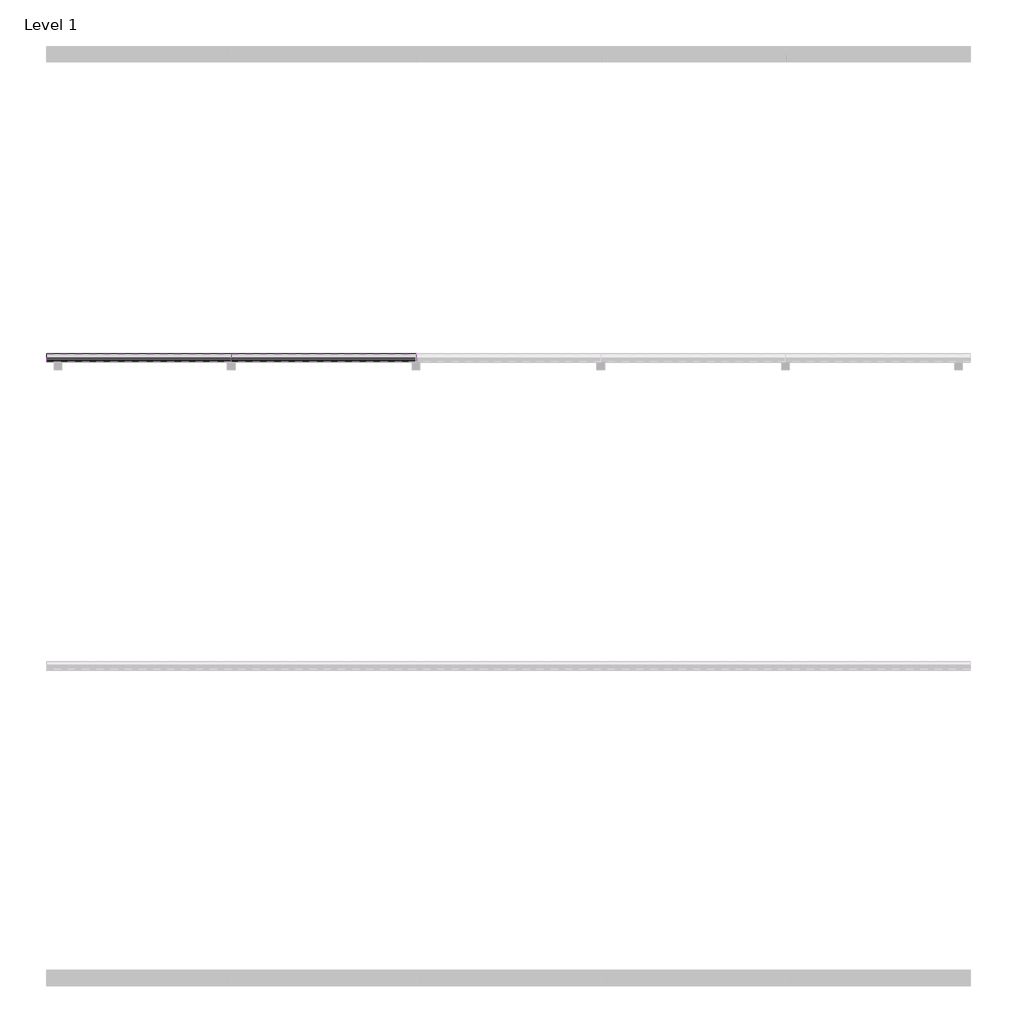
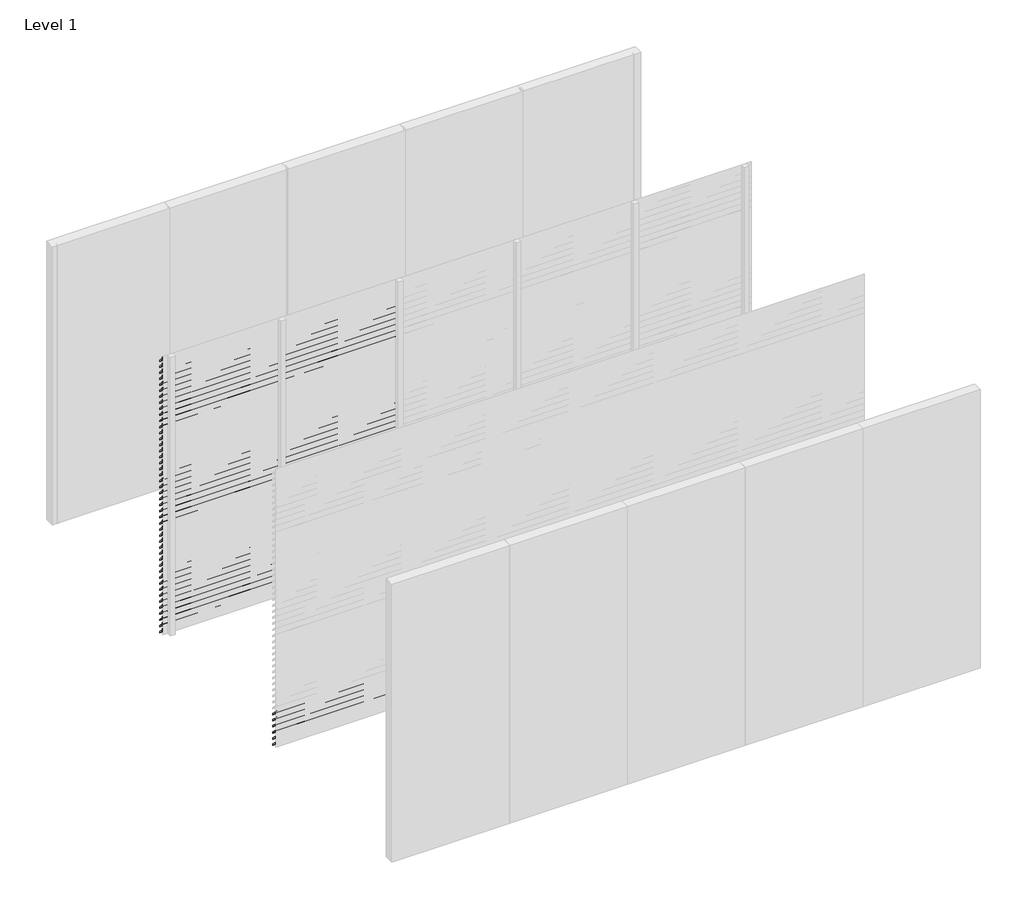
# One storey, part 5 of 12: 97 proxies.
"""IFC4 building model written with IfcOpenShell, lengths in millimetres."""

from ifc_helpers import new_model, si_unit, frame, origin, place, context, project, spatial, polyline, outline, extrude, element, save

model = new_model("IFC4")

# Units and contexts
model_context = context("Model", 3, world=origin())
ifc_project = project(units=[si_unit("LENGTHUNIT", "METRE", prefix="MILLI")], contexts=[model_context])

# Site, building, storey
site = spatial("IfcSite", under=ifc_project)
building = spatial("IfcBuilding", under=site)
storey = spatial("IfcBuildingStorey", under=building, Name="Level 1", Elevation=0.0)

# Proxies
placement = place(None, origin())
element("IfcBuildingElementProxy", 1, Name="Wall Sweeps", at=placement, inside=storey, context=model_context, shape_type="SweptSolid", body=[
    extrude(outline(polyline([(-11995.0, 2990.0), (-11995.0, 2980.7409854), (-11946.0, 2930.0), (-11946.0, 2914.0), (-11997.0, 2966.812046), (-11997.0, 2990.0), (-11995.0, 2990.0)])), frame((0.0, 0.0, 0.0), z_axis=(1.0, 0.0, 0.0), x_axis=(0.0, 1.0, 0.0)), (0.0, 0.0, 1.0), 1200.0),
])
element("IfcBuildingElementProxy", 2, Name="Wall Sweeps", at=placement, inside=storey, context=model_context, shape_type="SweptSolid", body=[
    extrude(outline(polyline([(-11995.0, 2925.0), (-11995.0, 2915.7409854), (-11946.0, 2865.0), (-11946.0, 2849.0), (-11997.0, 2901.812046), (-11997.0, 2925.0), (-11995.0, 2925.0)])), frame((0.0, 0.0, 0.0), z_axis=(1.0, 0.0, 0.0), x_axis=(0.0, 1.0, 0.0)), (0.0, 0.0, 1.0), 1200.0),
])
element("IfcBuildingElementProxy", 3, Name="Wall Sweeps", at=placement, inside=storey, context=model_context, shape_type="SweptSolid", body=[
    extrude(outline(polyline([(-11995.0, 2860.0), (-11995.0, 2850.7409854), (-11946.0, 2800.0), (-11946.0, 2784.0), (-11997.0, 2836.812046), (-11997.0, 2860.0), (-11995.0, 2860.0)])), frame((0.0, 0.0, 0.0), z_axis=(1.0, 0.0, 0.0), x_axis=(0.0, 1.0, 0.0)), (0.0, 0.0, 1.0), 1200.0),
])
element("IfcBuildingElementProxy", 4, Name="Wall Sweeps", at=placement, inside=storey, context=model_context, shape_type="SweptSolid", body=[
    extrude(outline(polyline([(-11995.0, 2795.0), (-11995.0, 2785.7409854), (-11946.0, 2735.0), (-11946.0, 2719.0), (-11997.0, 2771.812046), (-11997.0, 2795.0), (-11995.0, 2795.0)])), frame((0.0, 0.0, 0.0), z_axis=(1.0, 0.0, 0.0), x_axis=(0.0, 1.0, 0.0)), (0.0, 0.0, 1.0), 1200.0),
])
element("IfcBuildingElementProxy", 5, Name="Wall Sweeps", at=placement, inside=storey, context=model_context, shape_type="SweptSolid", body=[
    extrude(outline(polyline([(-11995.0, 2730.0), (-11995.0, 2720.7409854), (-11946.0, 2670.0), (-11946.0, 2654.0), (-11997.0, 2706.812046), (-11997.0, 2730.0), (-11995.0, 2730.0)])), frame((0.0, 0.0, 0.0), z_axis=(1.0, 0.0, 0.0), x_axis=(0.0, 1.0, 0.0)), (0.0, 0.0, 1.0), 1200.0),
])
element("IfcBuildingElementProxy", 6, Name="Wall Sweeps", at=placement, inside=storey, context=model_context, shape_type="SweptSolid", body=[
    extrude(outline(polyline([(-11995.0, 2665.0), (-11995.0, 2655.7409854), (-11946.0, 2605.0), (-11946.0, 2589.0), (-11997.0, 2641.812046), (-11997.0, 2665.0), (-11995.0, 2665.0)])), frame((0.0, 0.0, 0.0), z_axis=(1.0, 0.0, 0.0), x_axis=(0.0, 1.0, 0.0)), (0.0, 0.0, 1.0), 1200.0),
])
element("IfcBuildingElementProxy", 7, Name="Wall Sweeps", at=placement, inside=storey, context=model_context, shape_type="SweptSolid", body=[
    extrude(outline(polyline([(-11995.0, 2600.0), (-11995.0, 2590.7409854), (-11946.0, 2540.0), (-11946.0, 2524.0), (-11997.0, 2576.812046), (-11997.0, 2600.0), (-11995.0, 2600.0)])), frame((0.0, 0.0, 0.0), z_axis=(1.0, 0.0, 0.0), x_axis=(0.0, 1.0, 0.0)), (0.0, 0.0, 1.0), 1200.0),
])
element("IfcBuildingElementProxy", 8, Name="Wall Sweeps", at=placement, inside=storey, context=model_context, shape_type="SweptSolid", body=[
    extrude(outline(polyline([(-11995.0, 2535.0), (-11995.0, 2525.7409854), (-11946.0, 2475.0), (-11946.0, 2459.0), (-11997.0, 2511.812046), (-11997.0, 2535.0), (-11995.0, 2535.0)])), frame((0.0, 0.0, 0.0), z_axis=(1.0, 0.0, 0.0), x_axis=(0.0, 1.0, 0.0)), (0.0, 0.0, 1.0), 1200.0),
])
element("IfcBuildingElementProxy", 9, Name="Wall Sweeps", at=placement, inside=storey, context=model_context, shape_type="SweptSolid", body=[
    extrude(outline(polyline([(-11995.0, 2470.0), (-11995.0, 2460.7409854), (-11946.0, 2410.0), (-11946.0, 2394.0), (-11997.0, 2446.812046), (-11997.0, 2470.0), (-11995.0, 2470.0)])), frame((0.0, 0.0, 0.0), z_axis=(1.0, 0.0, 0.0), x_axis=(0.0, 1.0, 0.0)), (0.0, 0.0, 1.0), 1200.0),
])
element("IfcBuildingElementProxy", 10, Name="Wall Sweeps", at=placement, inside=storey, context=model_context, shape_type="SweptSolid", body=[
    extrude(outline(polyline([(-11995.0, 2405.0), (-11995.0, 2395.7409854), (-11946.0, 2345.0), (-11946.0, 2329.0), (-11997.0, 2381.812046), (-11997.0, 2405.0), (-11995.0, 2405.0)])), frame((0.0, 0.0, 0.0), z_axis=(1.0, 0.0, 0.0), x_axis=(0.0, 1.0, 0.0)), (0.0, 0.0, 1.0), 1200.0),
])
element("IfcBuildingElementProxy", 11, Name="Wall Sweeps", at=placement, inside=storey, context=model_context, shape_type="SweptSolid", body=[
    extrude(outline(polyline([(-11995.0, 2340.0), (-11995.0, 2330.7409854), (-11946.0, 2280.0), (-11946.0, 2264.0), (-11997.0, 2316.812046), (-11997.0, 2340.0), (-11995.0, 2340.0)])), frame((0.0, 0.0, 0.0), z_axis=(1.0, 0.0, 0.0), x_axis=(0.0, 1.0, 0.0)), (0.0, 0.0, 1.0), 1200.0),
])
element("IfcBuildingElementProxy", 12, Name="Wall Sweeps", at=placement, inside=storey, context=model_context, shape_type="SweptSolid", body=[
    extrude(outline(polyline([(-11995.0, 2275.0), (-11995.0, 2265.7409854), (-11946.0, 2215.0), (-11946.0, 2199.0), (-11997.0, 2251.812046), (-11997.0, 2275.0), (-11995.0, 2275.0)])), frame((0.0, 0.0, 0.0), z_axis=(1.0, 0.0, 0.0), x_axis=(0.0, 1.0, 0.0)), (0.0, 0.0, 1.0), 1200.0),
])
element("IfcBuildingElementProxy", 13, Name="Wall Sweeps", at=placement, inside=storey, context=model_context, shape_type="SweptSolid", body=[
    extrude(outline(polyline([(-11995.0, 2210.0), (-11995.0, 2200.7409854), (-11946.0, 2150.0), (-11946.0, 2134.0), (-11997.0, 2186.812046), (-11997.0, 2210.0), (-11995.0, 2210.0)])), frame((0.0, 0.0, 0.0), z_axis=(1.0, 0.0, 0.0), x_axis=(0.0, 1.0, 0.0)), (0.0, 0.0, 1.0), 1200.0),
])
element("IfcBuildingElementProxy", 14, Name="Wall Sweeps", at=placement, inside=storey, context=model_context, shape_type="SweptSolid", body=[
    extrude(outline(polyline([(-11995.0, 2145.0), (-11995.0, 2135.7409854), (-11946.0, 2085.0), (-11946.0, 2069.0), (-11997.0, 2121.812046), (-11997.0, 2145.0), (-11995.0, 2145.0)])), frame((0.0, 0.0, 0.0), z_axis=(1.0, 0.0, 0.0), x_axis=(0.0, 1.0, 0.0)), (0.0, 0.0, 1.0), 1200.0),
])
element("IfcBuildingElementProxy", 15, Name="Wall Sweeps", at=placement, inside=storey, context=model_context, shape_type="SweptSolid", body=[
    extrude(outline(polyline([(-11995.0, 2080.0), (-11995.0, 2070.7409854), (-11946.0, 2020.0), (-11946.0, 2004.0), (-11997.0, 2056.812046), (-11997.0, 2080.0), (-11995.0, 2080.0)])), frame((0.0, 0.0, 0.0), z_axis=(1.0, 0.0, 0.0), x_axis=(0.0, 1.0, 0.0)), (0.0, 0.0, 1.0), 1200.0),
])
element("IfcBuildingElementProxy", 16, Name="Wall Sweeps", at=placement, inside=storey, context=model_context, shape_type="SweptSolid", body=[
    extrude(outline(polyline([(-11995.0, 2015.0), (-11995.0, 2005.7409854), (-11946.0, 1955.0), (-11946.0, 1939.0), (-11997.0, 1991.812046), (-11997.0, 2015.0), (-11995.0, 2015.0)])), frame((0.0, 0.0, 0.0), z_axis=(1.0, 0.0, 0.0), x_axis=(0.0, 1.0, 0.0)), (0.0, 0.0, 1.0), 1200.0),
])
element("IfcBuildingElementProxy", 17, Name="Wall Sweeps", at=placement, inside=storey, context=model_context, shape_type="SweptSolid", body=[
    extrude(outline(polyline([(-11995.0, 1950.0), (-11995.0, 1940.7409854), (-11946.0, 1890.0), (-11946.0, 1874.0), (-11997.0, 1926.812046), (-11997.0, 1950.0), (-11995.0, 1950.0)])), frame((0.0, 0.0, 0.0), z_axis=(1.0, 0.0, 0.0), x_axis=(0.0, 1.0, 0.0)), (0.0, 0.0, 1.0), 1200.0),
])
element("IfcBuildingElementProxy", 18, Name="Wall Sweeps", at=placement, inside=storey, context=model_context, shape_type="SweptSolid", body=[
    extrude(outline(polyline([(-11995.0, 1885.0), (-11995.0, 1875.7409854), (-11946.0, 1825.0), (-11946.0, 1809.0), (-11997.0, 1861.812046), (-11997.0, 1885.0), (-11995.0, 1885.0)])), frame((0.0, 0.0, 0.0), z_axis=(1.0, 0.0, 0.0), x_axis=(0.0, 1.0, 0.0)), (0.0, 0.0, 1.0), 1200.0),
])
element("IfcBuildingElementProxy", 19, Name="Wall Sweeps", at=placement, inside=storey, context=model_context, shape_type="SweptSolid", body=[
    extrude(outline(polyline([(-11995.0, 1820.0), (-11995.0, 1810.7409854), (-11946.0, 1760.0), (-11946.0, 1744.0), (-11997.0, 1796.812046), (-11997.0, 1820.0), (-11995.0, 1820.0)])), frame((0.0, 0.0, 0.0), z_axis=(1.0, 0.0, 0.0), x_axis=(0.0, 1.0, 0.0)), (0.0, 0.0, 1.0), 1200.0),
])
element("IfcBuildingElementProxy", 20, Name="Wall Sweeps", at=placement, inside=storey, context=model_context, shape_type="SweptSolid", body=[
    extrude(outline(polyline([(-11995.0, 1755.0), (-11995.0, 1745.7409854), (-11946.0, 1695.0), (-11946.0, 1679.0), (-11997.0, 1731.812046), (-11997.0, 1755.0), (-11995.0, 1755.0)])), frame((0.0, 0.0, 0.0), z_axis=(1.0, 0.0, 0.0), x_axis=(0.0, 1.0, 0.0)), (0.0, 0.0, 1.0), 1200.0),
])
element("IfcBuildingElementProxy", 21, Name="Wall Sweeps", at=placement, inside=storey, context=model_context, shape_type="SweptSolid", body=[
    extrude(outline(polyline([(-11995.0, 1690.0), (-11995.0, 1680.7409854), (-11946.0, 1630.0), (-11946.0, 1614.0), (-11997.0, 1666.812046), (-11997.0, 1690.0), (-11995.0, 1690.0)])), frame((0.0, 0.0, 0.0), z_axis=(1.0, 0.0, 0.0), x_axis=(0.0, 1.0, 0.0)), (0.0, 0.0, 1.0), 1200.0),
])
element("IfcBuildingElementProxy", 22, Name="Wall Sweeps", at=placement, inside=storey, context=model_context, shape_type="SweptSolid", body=[
    extrude(outline(polyline([(-11995.0, 1625.0), (-11995.0, 1615.7409854), (-11946.0, 1565.0), (-11946.0, 1549.0), (-11997.0, 1601.812046), (-11997.0, 1625.0), (-11995.0, 1625.0)])), frame((0.0, 0.0, 0.0), z_axis=(1.0, 0.0, 0.0), x_axis=(0.0, 1.0, 0.0)), (0.0, 0.0, 1.0), 1200.0),
])
element("IfcBuildingElementProxy", 23, Name="Wall Sweeps", at=placement, inside=storey, context=model_context, shape_type="SweptSolid", body=[
    extrude(outline(polyline([(-11995.0, 1560.0), (-11995.0, 1550.7409854), (-11946.0, 1500.0), (-11946.0, 1484.0), (-11997.0, 1536.812046), (-11997.0, 1560.0), (-11995.0, 1560.0)])), frame((0.0, 0.0, 0.0), z_axis=(1.0, 0.0, 0.0), x_axis=(0.0, 1.0, 0.0)), (0.0, 0.0, 1.0), 1200.0),
])
element("IfcBuildingElementProxy", 24, Name="Wall Sweeps", at=placement, inside=storey, context=model_context, shape_type="SweptSolid", body=[
    extrude(outline(polyline([(-11995.0, 1495.0), (-11995.0, 1485.7409854), (-11946.0, 1435.0), (-11946.0, 1419.0), (-11997.0, 1471.812046), (-11997.0, 1495.0), (-11995.0, 1495.0)])), frame((0.0, 0.0, 0.0), z_axis=(1.0, 0.0, 0.0), x_axis=(0.0, 1.0, 0.0)), (0.0, 0.0, 1.0), 1200.0),
])
element("IfcBuildingElementProxy", 25, Name="Wall Sweeps", at=placement, inside=storey, context=model_context, shape_type="SweptSolid", body=[
    extrude(outline(polyline([(-11995.0, 1430.0), (-11995.0, 1420.7409854), (-11946.0, 1370.0), (-11946.0, 1354.0), (-11997.0, 1406.812046), (-11997.0, 1430.0), (-11995.0, 1430.0)])), frame((0.0, 0.0, 0.0), z_axis=(1.0, 0.0, 0.0), x_axis=(0.0, 1.0, 0.0)), (0.0, 0.0, 1.0), 1200.0),
])
element("IfcBuildingElementProxy", 26, Name="Wall Sweeps", at=placement, inside=storey, context=model_context, shape_type="SweptSolid", body=[
    extrude(outline(polyline([(-11995.0, 1365.0), (-11995.0, 1355.7409854), (-11946.0, 1305.0), (-11946.0, 1289.0), (-11997.0, 1341.812046), (-11997.0, 1365.0), (-11995.0, 1365.0)])), frame((0.0, 0.0, 0.0), z_axis=(1.0, 0.0, 0.0), x_axis=(0.0, 1.0, 0.0)), (0.0, 0.0, 1.0), 1200.0),
])
element("IfcBuildingElementProxy", 27, Name="Wall Sweeps", at=placement, inside=storey, context=model_context, shape_type="SweptSolid", body=[
    extrude(outline(polyline([(-11995.0, 1300.0), (-11995.0, 1290.7409854), (-11946.0, 1240.0), (-11946.0, 1224.0), (-11997.0, 1276.812046), (-11997.0, 1300.0), (-11995.0, 1300.0)])), frame((0.0, 0.0, 0.0), z_axis=(1.0, 0.0, 0.0), x_axis=(0.0, 1.0, 0.0)), (0.0, 0.0, 1.0), 1200.0),
])
element("IfcBuildingElementProxy", 28, Name="Wall Sweeps", at=placement, inside=storey, context=model_context, shape_type="SweptSolid", body=[
    extrude(outline(polyline([(-11995.0, 1235.0), (-11995.0, 1225.7409854), (-11946.0, 1175.0), (-11946.0, 1159.0), (-11997.0, 1211.812046), (-11997.0, 1235.0), (-11995.0, 1235.0)])), frame((0.0, 0.0, 0.0), z_axis=(1.0, 0.0, 0.0), x_axis=(0.0, 1.0, 0.0)), (0.0, 0.0, 1.0), 1200.0),
])
element("IfcBuildingElementProxy", 29, Name="Wall Sweeps", at=placement, inside=storey, context=model_context, shape_type="SweptSolid", body=[
    extrude(outline(polyline([(-11995.0, 1170.0), (-11995.0, 1160.7409854), (-11946.0, 1110.0), (-11946.0, 1094.0), (-11997.0, 1146.812046), (-11997.0, 1170.0), (-11995.0, 1170.0)])), frame((0.0, 0.0, 0.0), z_axis=(1.0, 0.0, 0.0), x_axis=(0.0, 1.0, 0.0)), (0.0, 0.0, 1.0), 1200.0),
])
element("IfcBuildingElementProxy", 30, Name="Wall Sweeps", at=placement, inside=storey, context=model_context, shape_type="SweptSolid", body=[
    extrude(outline(polyline([(-11995.0, 1105.0), (-11995.0, 1095.7409854), (-11946.0, 1045.0), (-11946.0, 1029.0), (-11997.0, 1081.812046), (-11997.0, 1105.0), (-11995.0, 1105.0)])), frame((0.0, 0.0, 0.0), z_axis=(1.0, 0.0, 0.0), x_axis=(0.0, 1.0, 0.0)), (0.0, 0.0, 1.0), 1200.0),
])
element("IfcBuildingElementProxy", 31, Name="Wall Sweeps", at=placement, inside=storey, context=model_context, shape_type="SweptSolid", body=[
    extrude(outline(polyline([(-11995.0, 1040.0), (-11995.0, 1030.7409854), (-11946.0, 980.0), (-11946.0, 964.0), (-11997.0, 1016.812046), (-11997.0, 1040.0), (-11995.0, 1040.0)])), frame((0.0, 0.0, 0.0), z_axis=(1.0, 0.0, 0.0), x_axis=(0.0, 1.0, 0.0)), (0.0, 0.0, 1.0), 1200.0),
])
element("IfcBuildingElementProxy", 32, Name="Wall Sweeps", at=placement, inside=storey, context=model_context, shape_type="SweptSolid", body=[
    extrude(outline(polyline([(-11995.0, 975.0), (-11995.0, 965.7409854), (-11946.0, 915.0), (-11946.0, 899.0), (-11997.0, 951.812046), (-11997.0, 975.0), (-11995.0, 975.0)])), frame((0.0, 0.0, 0.0), z_axis=(1.0, 0.0, 0.0), x_axis=(0.0, 1.0, 0.0)), (0.0, 0.0, 1.0), 1200.0),
])
element("IfcBuildingElementProxy", 33, Name="Wall Sweeps", at=placement, inside=storey, context=model_context, shape_type="SweptSolid", body=[
    extrude(outline(polyline([(-11995.0, 910.0), (-11995.0, 900.7409854), (-11946.0, 850.0), (-11946.0, 834.0), (-11997.0, 886.812046), (-11997.0, 910.0), (-11995.0, 910.0)])), frame((0.0, 0.0, 0.0), z_axis=(1.0, 0.0, 0.0), x_axis=(0.0, 1.0, 0.0)), (0.0, 0.0, 1.0), 1200.0),
])
element("IfcBuildingElementProxy", 34, Name="Wall Sweeps", at=placement, inside=storey, context=model_context, shape_type="SweptSolid", body=[
    extrude(outline(polyline([(-11995.0, 845.0), (-11995.0, 835.7409854), (-11946.0, 785.0), (-11946.0, 769.0), (-11997.0, 821.812046), (-11997.0, 845.0), (-11995.0, 845.0)])), frame((0.0, 0.0, 0.0), z_axis=(1.0, 0.0, 0.0), x_axis=(0.0, 1.0, 0.0)), (0.0, 0.0, 1.0), 1200.0),
])
element("IfcBuildingElementProxy", 35, Name="Wall Sweeps", at=placement, inside=storey, context=model_context, shape_type="SweptSolid", body=[
    extrude(outline(polyline([(-11995.0, 780.0), (-11995.0, 770.7409854), (-11946.0, 720.0), (-11946.0, 704.0), (-11997.0, 756.812046), (-11997.0, 780.0), (-11995.0, 780.0)])), frame((0.0, 0.0, 0.0), z_axis=(1.0, 0.0, 0.0), x_axis=(0.0, 1.0, 0.0)), (0.0, 0.0, 1.0), 1200.0),
])
element("IfcBuildingElementProxy", 36, Name="Wall Sweeps", at=placement, inside=storey, context=model_context, shape_type="SweptSolid", body=[
    extrude(outline(polyline([(-11995.0, 715.0), (-11995.0, 705.7409854), (-11946.0, 655.0), (-11946.0, 639.0), (-11997.0, 691.812046), (-11997.0, 715.0), (-11995.0, 715.0)])), frame((0.0, 0.0, 0.0), z_axis=(1.0, 0.0, 0.0), x_axis=(0.0, 1.0, 0.0)), (0.0, 0.0, 1.0), 1200.0),
])
element("IfcBuildingElementProxy", 37, Name="Wall Sweeps", at=placement, inside=storey, context=model_context, shape_type="SweptSolid", body=[
    extrude(outline(polyline([(-11995.0, 650.0), (-11995.0, 640.7409854), (-11946.0, 590.0), (-11946.0, 574.0), (-11997.0, 626.812046), (-11997.0, 650.0), (-11995.0, 650.0)])), frame((0.0, 0.0, 0.0), z_axis=(1.0, 0.0, 0.0), x_axis=(0.0, 1.0, 0.0)), (0.0, 0.0, 1.0), 1200.0),
])
element("IfcBuildingElementProxy", 38, Name="Wall Sweeps", at=placement, inside=storey, context=model_context, shape_type="SweptSolid", body=[
    extrude(outline(polyline([(-11995.0, 585.0), (-11995.0, 575.7409854), (-11946.0, 525.0), (-11946.0, 509.0), (-11997.0, 561.812046), (-11997.0, 585.0), (-11995.0, 585.0)])), frame((0.0, 0.0, 0.0), z_axis=(1.0, 0.0, 0.0), x_axis=(0.0, 1.0, 0.0)), (0.0, 0.0, 1.0), 1200.0),
])
element("IfcBuildingElementProxy", 39, Name="Wall Sweeps", at=placement, inside=storey, context=model_context, shape_type="SweptSolid", body=[
    extrude(outline(polyline([(-11995.0, 520.0), (-11995.0, 510.7409854), (-11946.0, 460.0), (-11946.0, 444.0), (-11997.0, 496.812046), (-11997.0, 520.0), (-11995.0, 520.0)])), frame((0.0, 0.0, 0.0), z_axis=(1.0, 0.0, 0.0), x_axis=(0.0, 1.0, 0.0)), (0.0, 0.0, 1.0), 1200.0),
])
element("IfcBuildingElementProxy", 40, Name="Wall Sweeps", at=placement, inside=storey, context=model_context, shape_type="SweptSolid", body=[
    extrude(outline(polyline([(-11995.0, 455.0), (-11995.0, 445.7409854), (-11946.0, 395.0), (-11946.0, 379.0), (-11997.0, 431.812046), (-11997.0, 455.0), (-11995.0, 455.0)])), frame((0.0, 0.0, 0.0), z_axis=(1.0, 0.0, 0.0), x_axis=(0.0, 1.0, 0.0)), (0.0, 0.0, 1.0), 1200.0),
])
element("IfcBuildingElementProxy", 41, Name="Wall Sweeps", at=placement, inside=storey, context=model_context, shape_type="SweptSolid", body=[
    extrude(outline(polyline([(-11995.0, 390.0), (-11995.0, 380.7409854), (-11946.0, 330.0), (-11946.0, 314.0), (-11997.0, 366.812046), (-11997.0, 390.0), (-11995.0, 390.0)])), frame((0.0, 0.0, 0.0), z_axis=(1.0, 0.0, 0.0), x_axis=(0.0, 1.0, 0.0)), (0.0, 0.0, 1.0), 1200.0),
])
element("IfcBuildingElementProxy", 42, Name="Wall Sweeps", at=placement, inside=storey, context=model_context, shape_type="SweptSolid", body=[
    extrude(outline(polyline([(-11995.0, 325.0), (-11995.0, 315.7409854), (-11946.0, 265.0), (-11946.0, 249.0), (-11997.0, 301.812046), (-11997.0, 325.0), (-11995.0, 325.0)])), frame((0.0, 0.0, 0.0), z_axis=(1.0, 0.0, 0.0), x_axis=(0.0, 1.0, 0.0)), (0.0, 0.0, 1.0), 1200.0),
])
element("IfcBuildingElementProxy", 43, Name="Wall Sweeps", at=placement, inside=storey, context=model_context, shape_type="SweptSolid", body=[
    extrude(outline(polyline([(-11995.0, 260.0), (-11995.0, 250.7409854), (-11946.0, 200.0), (-11946.0, 184.0), (-11997.0, 236.812046), (-11997.0, 260.0), (-11995.0, 260.0)])), frame((0.0, 0.0, 0.0), z_axis=(1.0, 0.0, 0.0), x_axis=(0.0, 1.0, 0.0)), (0.0, 0.0, 1.0), 1200.0),
])
element("IfcBuildingElementProxy", 44, Name="Wall Sweeps", at=placement, inside=storey, context=model_context, shape_type="SweptSolid", body=[
    extrude(outline(polyline([(-11995.0, 195.0), (-11995.0, 185.7409854), (-11946.0, 135.0), (-11946.0, 119.0), (-11997.0, 171.812046), (-11997.0, 195.0), (-11995.0, 195.0)])), frame((0.0, 0.0, 0.0), z_axis=(1.0, 0.0, 0.0), x_axis=(0.0, 1.0, 0.0)), (0.0, 0.0, 1.0), 1200.0),
])
element("IfcBuildingElementProxy", 45, Name="Wall Sweeps", at=placement, inside=storey, context=model_context, shape_type="SweptSolid", body=[
    extrude(outline(polyline([(-11995.0, 130.0), (-11995.0, 120.7409854), (-11946.0, 70.0), (-11946.0, 54.0), (-11997.0, 106.812046), (-11997.0, 130.0), (-11995.0, 130.0)])), frame((0.0, 0.0, 0.0), z_axis=(1.0, 0.0, 0.0), x_axis=(0.0, 1.0, 0.0)), (0.0, 0.0, 1.0), 1200.0),
])
element("IfcBuildingElementProxy", 46, Name="Wall Sweeps", at=placement, inside=storey, context=model_context, shape_type="SweptSolid", body=[
    extrude(outline(polyline([(-11995.0, 65.0), (-11995.0, 55.7409854), (-11946.0, 5.0), (-11946.0, -11.0), (-11997.0, 41.812046), (-11997.0, 65.0), (-11995.0, 65.0)])), frame((0.0, 0.0, 0.0), z_axis=(1.0, 0.0, 0.0), x_axis=(0.0, 1.0, 0.0)), (0.0, 0.0, 1.0), 1200.0),
])
element("IfcBuildingElementProxy", 47, Name="Wall Sweeps", at=placement, inside=storey, context=model_context, shape_type="SweptSolid", body=[
    extrude(outline(polyline([(-11995.0, 2990.0), (-11995.0, 2980.7409854), (-11946.0, 2930.0), (-11946.0, 2914.0), (-11997.0, 2966.812046), (-11997.0, 2990.0), (-11995.0, 2990.0)])), frame((1200.0, 0.0, 0.0), z_axis=(1.0, 0.0, 0.0), x_axis=(0.0, 1.0, 0.0)), (0.0, 0.0, 1.0), 1200.0),
])
element("IfcBuildingElementProxy", 48, Name="Wall Sweeps", at=placement, inside=storey, context=model_context, shape_type="SweptSolid", body=[
    extrude(outline(polyline([(-11995.0, 2925.0), (-11995.0, 2915.7409854), (-11946.0, 2865.0), (-11946.0, 2849.0), (-11997.0, 2901.812046), (-11997.0, 2925.0), (-11995.0, 2925.0)])), frame((1200.0, 0.0, 0.0), z_axis=(1.0, 0.0, 0.0), x_axis=(0.0, 1.0, 0.0)), (0.0, 0.0, 1.0), 1200.0),
])
element("IfcBuildingElementProxy", 49, Name="Wall Sweeps", at=placement, inside=storey, context=model_context, shape_type="SweptSolid", body=[
    extrude(outline(polyline([(-11995.0, 2860.0), (-11995.0, 2850.7409854), (-11946.0, 2800.0), (-11946.0, 2784.0), (-11997.0, 2836.812046), (-11997.0, 2860.0), (-11995.0, 2860.0)])), frame((1200.0, 0.0, 0.0), z_axis=(1.0, 0.0, 0.0), x_axis=(0.0, 1.0, 0.0)), (0.0, 0.0, 1.0), 1200.0),
])
element("IfcBuildingElementProxy", 50, Name="Wall Sweeps", at=placement, inside=storey, context=model_context, shape_type="SweptSolid", body=[
    extrude(outline(polyline([(-11995.0, 2795.0), (-11995.0, 2785.7409854), (-11946.0, 2735.0), (-11946.0, 2719.0), (-11997.0, 2771.812046), (-11997.0, 2795.0), (-11995.0, 2795.0)])), frame((1200.0, 0.0, 0.0), z_axis=(1.0, 0.0, 0.0), x_axis=(0.0, 1.0, 0.0)), (0.0, 0.0, 1.0), 1200.0),
])
element("IfcBuildingElementProxy", 51, Name="Wall Sweeps", at=placement, inside=storey, context=model_context, shape_type="SweptSolid", body=[
    extrude(outline(polyline([(-11995.0, 2730.0), (-11995.0, 2720.7409854), (-11946.0, 2670.0), (-11946.0, 2654.0), (-11997.0, 2706.812046), (-11997.0, 2730.0), (-11995.0, 2730.0)])), frame((1200.0, 0.0, 0.0), z_axis=(1.0, 0.0, 0.0), x_axis=(0.0, 1.0, 0.0)), (0.0, 0.0, 1.0), 1200.0),
])
element("IfcBuildingElementProxy", 52, Name="Wall Sweeps", at=placement, inside=storey, context=model_context, shape_type="SweptSolid", body=[
    extrude(outline(polyline([(-11995.0, 2665.0), (-11995.0, 2655.7409854), (-11946.0, 2605.0), (-11946.0, 2589.0), (-11997.0, 2641.812046), (-11997.0, 2665.0), (-11995.0, 2665.0)])), frame((1200.0, 0.0, 0.0), z_axis=(1.0, 0.0, 0.0), x_axis=(0.0, 1.0, 0.0)), (0.0, 0.0, 1.0), 1200.0),
])
element("IfcBuildingElementProxy", 53, Name="Wall Sweeps", at=placement, inside=storey, context=model_context, shape_type="SweptSolid", body=[
    extrude(outline(polyline([(-11995.0, 2600.0), (-11995.0, 2590.7409854), (-11946.0, 2540.0), (-11946.0, 2524.0), (-11997.0, 2576.812046), (-11997.0, 2600.0), (-11995.0, 2600.0)])), frame((1200.0, 0.0, 0.0), z_axis=(1.0, 0.0, 0.0), x_axis=(0.0, 1.0, 0.0)), (0.0, 0.0, 1.0), 1200.0),
])
element("IfcBuildingElementProxy", 54, Name="Wall Sweeps", at=placement, inside=storey, context=model_context, shape_type="SweptSolid", body=[
    extrude(outline(polyline([(-11995.0, 2535.0), (-11995.0, 2525.7409854), (-11946.0, 2475.0), (-11946.0, 2459.0), (-11997.0, 2511.812046), (-11997.0, 2535.0), (-11995.0, 2535.0)])), frame((1200.0, 0.0, 0.0), z_axis=(1.0, 0.0, 0.0), x_axis=(0.0, 1.0, 0.0)), (0.0, 0.0, 1.0), 1200.0),
])
element("IfcBuildingElementProxy", 55, Name="Wall Sweeps", at=placement, inside=storey, context=model_context, shape_type="SweptSolid", body=[
    extrude(outline(polyline([(-11995.0, 2470.0), (-11995.0, 2460.7409854), (-11946.0, 2410.0), (-11946.0, 2394.0), (-11997.0, 2446.812046), (-11997.0, 2470.0), (-11995.0, 2470.0)])), frame((1200.0, 0.0, 0.0), z_axis=(1.0, 0.0, 0.0), x_axis=(0.0, 1.0, 0.0)), (0.0, 0.0, 1.0), 1200.0),
])
element("IfcBuildingElementProxy", 56, Name="Wall Sweeps", at=placement, inside=storey, context=model_context, shape_type="SweptSolid", body=[
    extrude(outline(polyline([(-11995.0, 2405.0), (-11995.0, 2395.7409854), (-11946.0, 2345.0), (-11946.0, 2329.0), (-11997.0, 2381.812046), (-11997.0, 2405.0), (-11995.0, 2405.0)])), frame((1200.0, 0.0, 0.0), z_axis=(1.0, 0.0, 0.0), x_axis=(0.0, 1.0, 0.0)), (0.0, 0.0, 1.0), 1200.0),
])
element("IfcBuildingElementProxy", 57, Name="Wall Sweeps", at=placement, inside=storey, context=model_context, shape_type="SweptSolid", body=[
    extrude(outline(polyline([(-11995.0, 2340.0), (-11995.0, 2330.7409854), (-11946.0, 2280.0), (-11946.0, 2264.0), (-11997.0, 2316.812046), (-11997.0, 2340.0), (-11995.0, 2340.0)])), frame((1200.0, 0.0, 0.0), z_axis=(1.0, 0.0, 0.0), x_axis=(0.0, 1.0, 0.0)), (0.0, 0.0, 1.0), 1200.0),
])
element("IfcBuildingElementProxy", 58, Name="Wall Sweeps", at=placement, inside=storey, context=model_context, shape_type="SweptSolid", body=[
    extrude(outline(polyline([(-11995.0, 2275.0), (-11995.0, 2265.7409854), (-11946.0, 2215.0), (-11946.0, 2199.0), (-11997.0, 2251.812046), (-11997.0, 2275.0), (-11995.0, 2275.0)])), frame((1200.0, 0.0, 0.0), z_axis=(1.0, 0.0, 0.0), x_axis=(0.0, 1.0, 0.0)), (0.0, 0.0, 1.0), 1200.0),
])
element("IfcBuildingElementProxy", 59, Name="Wall Sweeps", at=placement, inside=storey, context=model_context, shape_type="SweptSolid", body=[
    extrude(outline(polyline([(-11995.0, 2210.0), (-11995.0, 2200.7409854), (-11946.0, 2150.0), (-11946.0, 2134.0), (-11997.0, 2186.812046), (-11997.0, 2210.0), (-11995.0, 2210.0)])), frame((1200.0, 0.0, 0.0), z_axis=(1.0, 0.0, 0.0), x_axis=(0.0, 1.0, 0.0)), (0.0, 0.0, 1.0), 1200.0),
])
element("IfcBuildingElementProxy", 60, Name="Wall Sweeps", at=placement, inside=storey, context=model_context, shape_type="SweptSolid", body=[
    extrude(outline(polyline([(-11995.0, 2145.0), (-11995.0, 2135.7409854), (-11946.0, 2085.0), (-11946.0, 2069.0), (-11997.0, 2121.812046), (-11997.0, 2145.0), (-11995.0, 2145.0)])), frame((1200.0, 0.0, 0.0), z_axis=(1.0, 0.0, 0.0), x_axis=(0.0, 1.0, 0.0)), (0.0, 0.0, 1.0), 1200.0),
])
element("IfcBuildingElementProxy", 61, Name="Wall Sweeps", at=placement, inside=storey, context=model_context, shape_type="SweptSolid", body=[
    extrude(outline(polyline([(-11995.0, 2080.0), (-11995.0, 2070.7409854), (-11946.0, 2020.0), (-11946.0, 2004.0), (-11997.0, 2056.812046), (-11997.0, 2080.0), (-11995.0, 2080.0)])), frame((1200.0, 0.0, 0.0), z_axis=(1.0, 0.0, 0.0), x_axis=(0.0, 1.0, 0.0)), (0.0, 0.0, 1.0), 1200.0),
])
element("IfcBuildingElementProxy", 62, Name="Wall Sweeps", at=placement, inside=storey, context=model_context, shape_type="SweptSolid", body=[
    extrude(outline(polyline([(-11995.0, 2015.0), (-11995.0, 2005.7409854), (-11946.0, 1955.0), (-11946.0, 1939.0), (-11997.0, 1991.812046), (-11997.0, 2015.0), (-11995.0, 2015.0)])), frame((1200.0, 0.0, 0.0), z_axis=(1.0, 0.0, 0.0), x_axis=(0.0, 1.0, 0.0)), (0.0, 0.0, 1.0), 1200.0),
])
element("IfcBuildingElementProxy", 63, Name="Wall Sweeps", at=placement, inside=storey, context=model_context, shape_type="SweptSolid", body=[
    extrude(outline(polyline([(-11995.0, 1950.0), (-11995.0, 1940.7409854), (-11946.0, 1890.0), (-11946.0, 1874.0), (-11997.0, 1926.812046), (-11997.0, 1950.0), (-11995.0, 1950.0)])), frame((1200.0, 0.0, 0.0), z_axis=(1.0, 0.0, 0.0), x_axis=(0.0, 1.0, 0.0)), (0.0, 0.0, 1.0), 1200.0),
])
element("IfcBuildingElementProxy", 64, Name="Wall Sweeps", at=placement, inside=storey, context=model_context, shape_type="SweptSolid", body=[
    extrude(outline(polyline([(-11995.0, 1885.0), (-11995.0, 1875.7409854), (-11946.0, 1825.0), (-11946.0, 1809.0), (-11997.0, 1861.812046), (-11997.0, 1885.0), (-11995.0, 1885.0)])), frame((1200.0, 0.0, 0.0), z_axis=(1.0, 0.0, 0.0), x_axis=(0.0, 1.0, 0.0)), (0.0, 0.0, 1.0), 1200.0),
])
element("IfcBuildingElementProxy", 65, Name="Wall Sweeps", at=placement, inside=storey, context=model_context, shape_type="SweptSolid", body=[
    extrude(outline(polyline([(-11995.0, 1820.0), (-11995.0, 1810.7409854), (-11946.0, 1760.0), (-11946.0, 1744.0), (-11997.0, 1796.812046), (-11997.0, 1820.0), (-11995.0, 1820.0)])), frame((1200.0, 0.0, 0.0), z_axis=(1.0, 0.0, 0.0), x_axis=(0.0, 1.0, 0.0)), (0.0, 0.0, 1.0), 1200.0),
])
element("IfcBuildingElementProxy", 66, Name="Wall Sweeps", at=placement, inside=storey, context=model_context, shape_type="SweptSolid", body=[
    extrude(outline(polyline([(-11995.0, 1755.0), (-11995.0, 1745.7409854), (-11946.0, 1695.0), (-11946.0, 1679.0), (-11997.0, 1731.812046), (-11997.0, 1755.0), (-11995.0, 1755.0)])), frame((1200.0, 0.0, 0.0), z_axis=(1.0, 0.0, 0.0), x_axis=(0.0, 1.0, 0.0)), (0.0, 0.0, 1.0), 1200.0),
])
element("IfcBuildingElementProxy", 67, Name="Wall Sweeps", at=placement, inside=storey, context=model_context, shape_type="SweptSolid", body=[
    extrude(outline(polyline([(-11995.0, 1690.0), (-11995.0, 1680.7409854), (-11946.0, 1630.0), (-11946.0, 1614.0), (-11997.0, 1666.812046), (-11997.0, 1690.0), (-11995.0, 1690.0)])), frame((1200.0, 0.0, 0.0), z_axis=(1.0, 0.0, 0.0), x_axis=(0.0, 1.0, 0.0)), (0.0, 0.0, 1.0), 1200.0),
])
element("IfcBuildingElementProxy", 68, Name="Wall Sweeps", at=placement, inside=storey, context=model_context, shape_type="SweptSolid", body=[
    extrude(outline(polyline([(-11995.0, 1625.0), (-11995.0, 1615.7409854), (-11946.0, 1565.0), (-11946.0, 1549.0), (-11997.0, 1601.812046), (-11997.0, 1625.0), (-11995.0, 1625.0)])), frame((1200.0, 0.0, 0.0), z_axis=(1.0, 0.0, 0.0), x_axis=(0.0, 1.0, 0.0)), (0.0, 0.0, 1.0), 1200.0),
])
element("IfcBuildingElementProxy", 69, Name="Wall Sweeps", at=placement, inside=storey, context=model_context, shape_type="SweptSolid", body=[
    extrude(outline(polyline([(-11995.0, 1560.0), (-11995.0, 1550.7409854), (-11946.0, 1500.0), (-11946.0, 1484.0), (-11997.0, 1536.812046), (-11997.0, 1560.0), (-11995.0, 1560.0)])), frame((1200.0, 0.0, 0.0), z_axis=(1.0, 0.0, 0.0), x_axis=(0.0, 1.0, 0.0)), (0.0, 0.0, 1.0), 1200.0),
])
element("IfcBuildingElementProxy", 70, Name="Wall Sweeps", at=placement, inside=storey, context=model_context, shape_type="SweptSolid", body=[
    extrude(outline(polyline([(-11995.0, 1495.0), (-11995.0, 1485.7409854), (-11946.0, 1435.0), (-11946.0, 1419.0), (-11997.0, 1471.812046), (-11997.0, 1495.0), (-11995.0, 1495.0)])), frame((1200.0, 0.0, 0.0), z_axis=(1.0, 0.0, 0.0), x_axis=(0.0, 1.0, 0.0)), (0.0, 0.0, 1.0), 1200.0),
])
element("IfcBuildingElementProxy", 71, Name="Wall Sweeps", at=placement, inside=storey, context=model_context, shape_type="SweptSolid", body=[
    extrude(outline(polyline([(-11995.0, 1430.0), (-11995.0, 1420.7409854), (-11946.0, 1370.0), (-11946.0, 1354.0), (-11997.0, 1406.812046), (-11997.0, 1430.0), (-11995.0, 1430.0)])), frame((1200.0, 0.0, 0.0), z_axis=(1.0, 0.0, 0.0), x_axis=(0.0, 1.0, 0.0)), (0.0, 0.0, 1.0), 1200.0),
])
element("IfcBuildingElementProxy", 72, Name="Wall Sweeps", at=placement, inside=storey, context=model_context, shape_type="SweptSolid", body=[
    extrude(outline(polyline([(-11995.0, 1365.0), (-11995.0, 1355.7409854), (-11946.0, 1305.0), (-11946.0, 1289.0), (-11997.0, 1341.812046), (-11997.0, 1365.0), (-11995.0, 1365.0)])), frame((1200.0, 0.0, 0.0), z_axis=(1.0, 0.0, 0.0), x_axis=(0.0, 1.0, 0.0)), (0.0, 0.0, 1.0), 1200.0),
])
element("IfcBuildingElementProxy", 73, Name="Wall Sweeps", at=placement, inside=storey, context=model_context, shape_type="SweptSolid", body=[
    extrude(outline(polyline([(-11995.0, 1300.0), (-11995.0, 1290.7409854), (-11946.0, 1240.0), (-11946.0, 1224.0), (-11997.0, 1276.812046), (-11997.0, 1300.0), (-11995.0, 1300.0)])), frame((1200.0, 0.0, 0.0), z_axis=(1.0, 0.0, 0.0), x_axis=(0.0, 1.0, 0.0)), (0.0, 0.0, 1.0), 1200.0),
])
element("IfcBuildingElementProxy", 74, Name="Wall Sweeps", at=placement, inside=storey, context=model_context, shape_type="SweptSolid", body=[
    extrude(outline(polyline([(-11995.0, 1235.0), (-11995.0, 1225.7409854), (-11946.0, 1175.0), (-11946.0, 1159.0), (-11997.0, 1211.812046), (-11997.0, 1235.0), (-11995.0, 1235.0)])), frame((1200.0, 0.0, 0.0), z_axis=(1.0, 0.0, 0.0), x_axis=(0.0, 1.0, 0.0)), (0.0, 0.0, 1.0), 1200.0),
])
element("IfcBuildingElementProxy", 75, Name="Wall Sweeps", at=placement, inside=storey, context=model_context, shape_type="SweptSolid", body=[
    extrude(outline(polyline([(-11995.0, 1170.0), (-11995.0, 1160.7409854), (-11946.0, 1110.0), (-11946.0, 1094.0), (-11997.0, 1146.812046), (-11997.0, 1170.0), (-11995.0, 1170.0)])), frame((1200.0, 0.0, 0.0), z_axis=(1.0, 0.0, 0.0), x_axis=(0.0, 1.0, 0.0)), (0.0, 0.0, 1.0), 1200.0),
])
element("IfcBuildingElementProxy", 76, Name="Wall Sweeps", at=placement, inside=storey, context=model_context, shape_type="SweptSolid", body=[
    extrude(outline(polyline([(-11995.0, 1105.0), (-11995.0, 1095.7409854), (-11946.0, 1045.0), (-11946.0, 1029.0), (-11997.0, 1081.812046), (-11997.0, 1105.0), (-11995.0, 1105.0)])), frame((1200.0, 0.0, 0.0), z_axis=(1.0, 0.0, 0.0), x_axis=(0.0, 1.0, 0.0)), (0.0, 0.0, 1.0), 1200.0),
])
element("IfcBuildingElementProxy", 77, Name="Wall Sweeps", at=placement, inside=storey, context=model_context, shape_type="SweptSolid", body=[
    extrude(outline(polyline([(-11995.0, 1040.0), (-11995.0, 1030.7409854), (-11946.0, 980.0), (-11946.0, 964.0), (-11997.0, 1016.812046), (-11997.0, 1040.0), (-11995.0, 1040.0)])), frame((1200.0, 0.0, 0.0), z_axis=(1.0, 0.0, 0.0), x_axis=(0.0, 1.0, 0.0)), (0.0, 0.0, 1.0), 1200.0),
])
element("IfcBuildingElementProxy", 78, Name="Wall Sweeps", at=placement, inside=storey, context=model_context, shape_type="SweptSolid", body=[
    extrude(outline(polyline([(-11995.0, 975.0), (-11995.0, 965.7409854), (-11946.0, 915.0), (-11946.0, 899.0), (-11997.0, 951.812046), (-11997.0, 975.0), (-11995.0, 975.0)])), frame((1200.0, 0.0, 0.0), z_axis=(1.0, 0.0, 0.0), x_axis=(0.0, 1.0, 0.0)), (0.0, 0.0, 1.0), 1200.0),
])
element("IfcBuildingElementProxy", 79, Name="Wall Sweeps", at=placement, inside=storey, context=model_context, shape_type="SweptSolid", body=[
    extrude(outline(polyline([(-11995.0, 910.0), (-11995.0, 900.7409854), (-11946.0, 850.0), (-11946.0, 834.0), (-11997.0, 886.812046), (-11997.0, 910.0), (-11995.0, 910.0)])), frame((1200.0, 0.0, 0.0), z_axis=(1.0, 0.0, 0.0), x_axis=(0.0, 1.0, 0.0)), (0.0, 0.0, 1.0), 1200.0),
])
element("IfcBuildingElementProxy", 80, Name="Wall Sweeps", at=placement, inside=storey, context=model_context, shape_type="SweptSolid", body=[
    extrude(outline(polyline([(-11995.0, 845.0), (-11995.0, 835.7409854), (-11946.0, 785.0), (-11946.0, 769.0), (-11997.0, 821.812046), (-11997.0, 845.0), (-11995.0, 845.0)])), frame((1200.0, 0.0, 0.0), z_axis=(1.0, 0.0, 0.0), x_axis=(0.0, 1.0, 0.0)), (0.0, 0.0, 1.0), 1200.0),
])
element("IfcBuildingElementProxy", 81, Name="Wall Sweeps", at=placement, inside=storey, context=model_context, shape_type="SweptSolid", body=[
    extrude(outline(polyline([(-11995.0, 780.0), (-11995.0, 770.7409854), (-11946.0, 720.0), (-11946.0, 704.0), (-11997.0, 756.812046), (-11997.0, 780.0), (-11995.0, 780.0)])), frame((1200.0, 0.0, 0.0), z_axis=(1.0, 0.0, 0.0), x_axis=(0.0, 1.0, 0.0)), (0.0, 0.0, 1.0), 1200.0),
])
element("IfcBuildingElementProxy", 82, Name="Wall Sweeps", at=placement, inside=storey, context=model_context, shape_type="SweptSolid", body=[
    extrude(outline(polyline([(-11995.0, 715.0), (-11995.0, 705.7409854), (-11946.0, 655.0), (-11946.0, 639.0), (-11997.0, 691.812046), (-11997.0, 715.0), (-11995.0, 715.0)])), frame((1200.0, 0.0, 0.0), z_axis=(1.0, 0.0, 0.0), x_axis=(0.0, 1.0, 0.0)), (0.0, 0.0, 1.0), 1200.0),
])
element("IfcBuildingElementProxy", 83, Name="Wall Sweeps", at=placement, inside=storey, context=model_context, shape_type="SweptSolid", body=[
    extrude(outline(polyline([(-11995.0, 650.0), (-11995.0, 640.7409854), (-11946.0, 590.0), (-11946.0, 574.0), (-11997.0, 626.812046), (-11997.0, 650.0), (-11995.0, 650.0)])), frame((1200.0, 0.0, 0.0), z_axis=(1.0, 0.0, 0.0), x_axis=(0.0, 1.0, 0.0)), (0.0, 0.0, 1.0), 1200.0),
])
element("IfcBuildingElementProxy", 84, Name="Wall Sweeps", at=placement, inside=storey, context=model_context, shape_type="SweptSolid", body=[
    extrude(outline(polyline([(-11995.0, 585.0), (-11995.0, 575.7409854), (-11946.0, 525.0), (-11946.0, 509.0), (-11997.0, 561.812046), (-11997.0, 585.0), (-11995.0, 585.0)])), frame((1200.0, 0.0, 0.0), z_axis=(1.0, 0.0, 0.0), x_axis=(0.0, 1.0, 0.0)), (0.0, 0.0, 1.0), 1200.0),
])
element("IfcBuildingElementProxy", 85, Name="Wall Sweeps", at=placement, inside=storey, context=model_context, shape_type="SweptSolid", body=[
    extrude(outline(polyline([(-11995.0, 520.0), (-11995.0, 510.7409854), (-11946.0, 460.0), (-11946.0, 444.0), (-11997.0, 496.812046), (-11997.0, 520.0), (-11995.0, 520.0)])), frame((1200.0, 0.0, 0.0), z_axis=(1.0, 0.0, 0.0), x_axis=(0.0, 1.0, 0.0)), (0.0, 0.0, 1.0), 1200.0),
])
element("IfcBuildingElementProxy", 86, Name="Wall Sweeps", at=placement, inside=storey, context=model_context, shape_type="SweptSolid", body=[
    extrude(outline(polyline([(-11995.0, 455.0), (-11995.0, 445.7409854), (-11946.0, 395.0), (-11946.0, 379.0), (-11997.0, 431.812046), (-11997.0, 455.0), (-11995.0, 455.0)])), frame((1200.0, 0.0, 0.0), z_axis=(1.0, 0.0, 0.0), x_axis=(0.0, 1.0, 0.0)), (0.0, 0.0, 1.0), 1200.0),
])
element("IfcBuildingElementProxy", 87, Name="Wall Sweeps", at=placement, inside=storey, context=model_context, shape_type="SweptSolid", body=[
    extrude(outline(polyline([(-11995.0, 390.0), (-11995.0, 380.7409854), (-11946.0, 330.0), (-11946.0, 314.0), (-11997.0, 366.812046), (-11997.0, 390.0), (-11995.0, 390.0)])), frame((1200.0, 0.0, 0.0), z_axis=(1.0, 0.0, 0.0), x_axis=(0.0, 1.0, 0.0)), (0.0, 0.0, 1.0), 1200.0),
])
element("IfcBuildingElementProxy", 88, Name="Wall Sweeps", at=placement, inside=storey, context=model_context, shape_type="SweptSolid", body=[
    extrude(outline(polyline([(-11995.0, 325.0), (-11995.0, 315.7409854), (-11946.0, 265.0), (-11946.0, 249.0), (-11997.0, 301.812046), (-11997.0, 325.0), (-11995.0, 325.0)])), frame((1200.0, 0.0, 0.0), z_axis=(1.0, 0.0, 0.0), x_axis=(0.0, 1.0, 0.0)), (0.0, 0.0, 1.0), 1200.0),
])
element("IfcBuildingElementProxy", 89, Name="Wall Sweeps", at=placement, inside=storey, context=model_context, shape_type="SweptSolid", body=[
    extrude(outline(polyline([(-11995.0, 260.0), (-11995.0, 250.7409854), (-11946.0, 200.0), (-11946.0, 184.0), (-11997.0, 236.812046), (-11997.0, 260.0), (-11995.0, 260.0)])), frame((1200.0, 0.0, 0.0), z_axis=(1.0, 0.0, 0.0), x_axis=(0.0, 1.0, 0.0)), (0.0, 0.0, 1.0), 1200.0),
])
element("IfcBuildingElementProxy", 90, Name="Wall Sweeps", at=placement, inside=storey, context=model_context, shape_type="SweptSolid", body=[
    extrude(outline(polyline([(-11995.0, 195.0), (-11995.0, 185.7409854), (-11946.0, 135.0), (-11946.0, 119.0), (-11997.0, 171.812046), (-11997.0, 195.0), (-11995.0, 195.0)])), frame((1200.0, 0.0, 0.0), z_axis=(1.0, 0.0, 0.0), x_axis=(0.0, 1.0, 0.0)), (0.0, 0.0, 1.0), 1200.0),
])
element("IfcBuildingElementProxy", 91, Name="Wall Sweeps", at=placement, inside=storey, context=model_context, shape_type="SweptSolid", body=[
    extrude(outline(polyline([(-11995.0, 130.0), (-11995.0, 120.7409854), (-11946.0, 70.0), (-11946.0, 54.0), (-11997.0, 106.812046), (-11997.0, 130.0), (-11995.0, 130.0)])), frame((1200.0, 0.0, 0.0), z_axis=(1.0, 0.0, 0.0), x_axis=(0.0, 1.0, 0.0)), (0.0, 0.0, 1.0), 1200.0),
])
element("IfcBuildingElementProxy", 92, Name="Wall Sweeps", at=placement, inside=storey, context=model_context, shape_type="SweptSolid", body=[
    extrude(outline(polyline([(-13995.0, 390.0), (-13995.0, 380.7409854), (-13946.0, 330.0), (-13946.0, 314.0), (-13997.0, 366.812046), (-13997.0, 390.0), (-13995.0, 390.0)])), frame((0.0, 0.0, 0.0), z_axis=(1.0, 0.0, 0.0), x_axis=(0.0, 1.0, 0.0)), (0.0, 0.0, 1.0), 6000.0),
])
element("IfcBuildingElementProxy", 93, Name="Wall Sweeps", at=placement, inside=storey, context=model_context, shape_type="SweptSolid", body=[
    extrude(outline(polyline([(-13995.0, 325.0), (-13995.0, 315.7409854), (-13946.0, 265.0), (-13946.0, 249.0), (-13997.0, 301.812046), (-13997.0, 325.0), (-13995.0, 325.0)])), frame((0.0, 0.0, 0.0), z_axis=(1.0, 0.0, 0.0), x_axis=(0.0, 1.0, 0.0)), (0.0, 0.0, 1.0), 6000.0),
])
element("IfcBuildingElementProxy", 94, Name="Wall Sweeps", at=placement, inside=storey, context=model_context, shape_type="SweptSolid", body=[
    extrude(outline(polyline([(-13995.0, 260.0), (-13995.0, 250.7409854), (-13946.0, 200.0), (-13946.0, 184.0), (-13997.0, 236.812046), (-13997.0, 260.0), (-13995.0, 260.0)])), frame((0.0, 0.0, 0.0), z_axis=(1.0, 0.0, 0.0), x_axis=(0.0, 1.0, 0.0)), (0.0, 0.0, 1.0), 6000.0),
])
element("IfcBuildingElementProxy", 95, Name="Wall Sweeps", at=placement, inside=storey, context=model_context, shape_type="SweptSolid", body=[
    extrude(outline(polyline([(-13995.0, 195.0), (-13995.0, 185.7409854), (-13946.0, 135.0), (-13946.0, 119.0), (-13997.0, 171.812046), (-13997.0, 195.0), (-13995.0, 195.0)])), frame((0.0, 0.0, 0.0), z_axis=(1.0, 0.0, 0.0), x_axis=(0.0, 1.0, 0.0)), (0.0, 0.0, 1.0), 6000.0),
])
element("IfcBuildingElementProxy", 96, Name="Wall Sweeps", at=placement, inside=storey, context=model_context, shape_type="SweptSolid", body=[
    extrude(outline(polyline([(-13995.0, 130.0), (-13995.0, 120.7409854), (-13946.0, 70.0), (-13946.0, 54.0), (-13997.0, 106.812046), (-13997.0, 130.0), (-13995.0, 130.0)])), frame((0.0, 0.0, 0.0), z_axis=(1.0, 0.0, 0.0), x_axis=(0.0, 1.0, 0.0)), (0.0, 0.0, 1.0), 6000.0),
])
element("IfcBuildingElementProxy", 97, Name="Wall Sweeps", at=placement, inside=storey, context=model_context, shape_type="SweptSolid", body=[
    extrude(outline(polyline([(-13995.0, 65.0), (-13995.0, 55.7409854), (-13946.0, 5.0), (-13946.0, -11.0), (-13997.0, 41.812046), (-13997.0, 65.0), (-13995.0, 65.0)])), frame((0.0, 0.0, 0.0), z_axis=(1.0, 0.0, 0.0), x_axis=(0.0, 1.0, 0.0)), (0.0, 0.0, 1.0), 6000.0),
])

save(model, "model.ifc")
